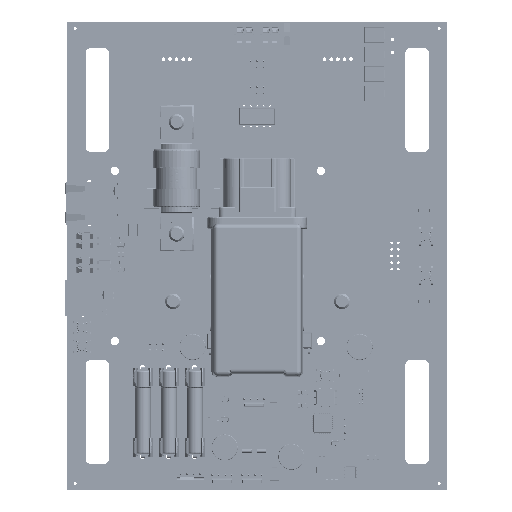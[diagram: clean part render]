
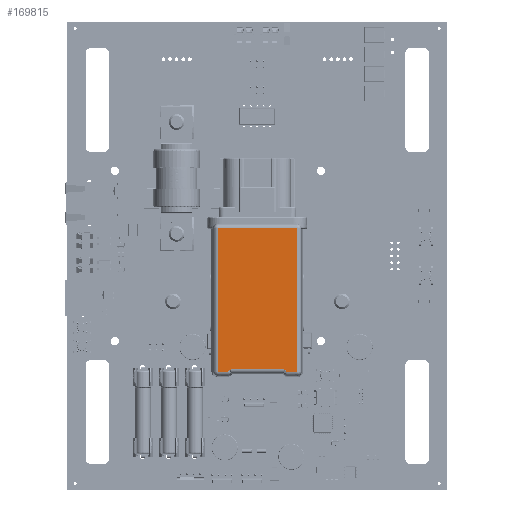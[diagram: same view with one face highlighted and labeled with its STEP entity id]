
A CAD part, top view. The second image highlights one B-rep face of the part: STEP entity #169815.
In plain terms, the highlighted planar face has unit normal (0, 0, 1) as drawn and (0, 1, 0) by its records, which use the part's own axes.
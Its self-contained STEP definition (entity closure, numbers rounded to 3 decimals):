
#169245 = VERTEX_POINT('',#169246);
#169246 = CARTESIAN_POINT('',(-15.186,23.,-26.964));
#169268 = EDGE_CURVE('',#169269,#169245,#169271,.T.);
#169269 = VERTEX_POINT('',#169270);
#169270 = CARTESIAN_POINT('',(-15.186,23.,-82.036));
#169271 = LINE('',#169272,#169273);
#169272 = CARTESIAN_POINT('',(-15.186,23.,-82.036));
#169273 = VECTOR('',#169274,1.);
#169274 = DIRECTION('',(0.,0.,1.));
#169328 = EDGE_CURVE('',#169329,#169269,#169331,.T.);
#169329 = VERTEX_POINT('',#169330);
#169330 = CARTESIAN_POINT('',(-11.279,23.,-82.036));
#169331 = LINE('',#169332,#169333);
#169332 = CARTESIAN_POINT('',(-11.279,23.,-82.036));
#169333 = VECTOR('',#169334,1.);
#169334 = DIRECTION('',(-1.,0.,0.));
#169563 = VERTEX_POINT('',#169564);
#169564 = CARTESIAN_POINT('',(11.279,23.,-82.036));
#169641 = EDGE_CURVE('',#169642,#169563,#169644,.T.);
#169642 = VERTEX_POINT('',#169643);
#169643 = CARTESIAN_POINT('',(15.186,23.,-82.036));
#169644 = LINE('',#169645,#169646);
#169645 = CARTESIAN_POINT('',(15.186,23.,-82.036));
#169646 = VECTOR('',#169647,1.);
#169647 = DIRECTION('',(-1.,0.,0.));
#169692 = EDGE_CURVE('',#169693,#169642,#169695,.T.);
#169693 = VERTEX_POINT('',#169694);
#169694 = CARTESIAN_POINT('',(15.186,23.,-26.964));
#169695 = LINE('',#169696,#169697);
#169696 = CARTESIAN_POINT('',(15.186,23.,-26.964));
#169697 = VECTOR('',#169698,1.);
#169698 = DIRECTION('',(0.,0.,-1.));
#169805 = EDGE_CURVE('',#169693,#169245,#169806,.T.);
#169806 = LINE('',#169807,#169808);
#169807 = CARTESIAN_POINT('',(15.186,23.,-26.964));
#169808 = VECTOR('',#169809,1.);
#169809 = DIRECTION('',(-1.,0.,0.));
#169815 = ADVANCED_FACE('',(#169816),#169855,.T.);
#169816 = FACE_BOUND('',#169817,.F.);
#169817 = EDGE_LOOP('',(#169818,#169831,#169832,#169833,#169834,#169835,
    #169836,#169849));
#169818 = ORIENTED_EDGE('',*,*,#169819,.F.);
#169819 = EDGE_CURVE('',#169563,#169820,#169822,.T.);
#169820 = VERTEX_POINT('',#169821);
#169821 = CARTESIAN_POINT('',(10.107,23.,-81.136));
#169822 = B_SPLINE_CURVE_WITH_KNOTS('',3,(#169823,#169824,#169825,
    #169826,#169827,#169828,#169829,#169830),.UNSPECIFIED.,.F.,.F.,(4,1,
    1,1,1,4),(0.,0.2,0.4,0.6,0.8,1.),.QUASI_UNIFORM_KNOTS.);
#169823 = CARTESIAN_POINT('',(11.279,23.,-82.036));
#169824 = CARTESIAN_POINT('',(11.225,23.,
    -81.947));
#169825 = CARTESIAN_POINT('',(11.104,23.,
    -81.782));
#169826 = CARTESIAN_POINT('',(10.875,23.,
    -81.567));
#169827 = CARTESIAN_POINT('',(10.628,23.,
    -81.397));
#169828 = CARTESIAN_POINT('',(10.376,23.,
    -81.261));
#169829 = CARTESIAN_POINT('',(10.197,22.999,
    -81.177));
#169830 = CARTESIAN_POINT('',(10.107,23.,-81.136));
#169831 = ORIENTED_EDGE('',*,*,#169641,.F.);
#169832 = ORIENTED_EDGE('',*,*,#169692,.F.);
#169833 = ORIENTED_EDGE('',*,*,#169805,.T.);
#169834 = ORIENTED_EDGE('',*,*,#169268,.F.);
#169835 = ORIENTED_EDGE('',*,*,#169328,.F.);
#169836 = ORIENTED_EDGE('',*,*,#169837,.F.);
#169837 = EDGE_CURVE('',#169838,#169329,#169840,.T.);
#169838 = VERTEX_POINT('',#169839);
#169839 = CARTESIAN_POINT('',(-10.107,23.,-81.136));
#169840 = B_SPLINE_CURVE_WITH_KNOTS('',3,(#169841,#169842,#169843,
    #169844,#169845,#169846,#169847,#169848),.UNSPECIFIED.,.F.,.F.,(4,1,
    1,1,1,4),(0.,0.2,0.4,0.6,0.8,1.),.QUASI_UNIFORM_KNOTS.);
#169841 = CARTESIAN_POINT('',(-10.107,23.,-81.136));
#169842 = CARTESIAN_POINT('',(-10.197,22.999,
    -81.177));
#169843 = CARTESIAN_POINT('',(-10.375,23.,
    -81.26));
#169844 = CARTESIAN_POINT('',(-10.627,23.,
    -81.397));
#169845 = CARTESIAN_POINT('',(-10.876,23.,
    -81.567));
#169846 = CARTESIAN_POINT('',(-11.104,23.,
    -81.782));
#169847 = CARTESIAN_POINT('',(-11.225,23.,
    -81.947));
#169848 = CARTESIAN_POINT('',(-11.279,23.,-82.036));
#169849 = ORIENTED_EDGE('',*,*,#169850,.F.);
#169850 = EDGE_CURVE('',#169820,#169838,#169851,.T.);
#169851 = LINE('',#169852,#169853);
#169852 = CARTESIAN_POINT('',(10.107,23.,-81.136));
#169853 = VECTOR('',#169854,1.);
#169854 = DIRECTION('',(-1.,0.,0.));
#169855 = PLANE('',#169856);
#169856 = AXIS2_PLACEMENT_3D('',#169857,#169858,#169859);
#169857 = CARTESIAN_POINT('',(-17.15,23.,-83.721));
#169858 = DIRECTION('',(0.,1.,0.));
#169859 = DIRECTION('',(0.,-0.,1.));
